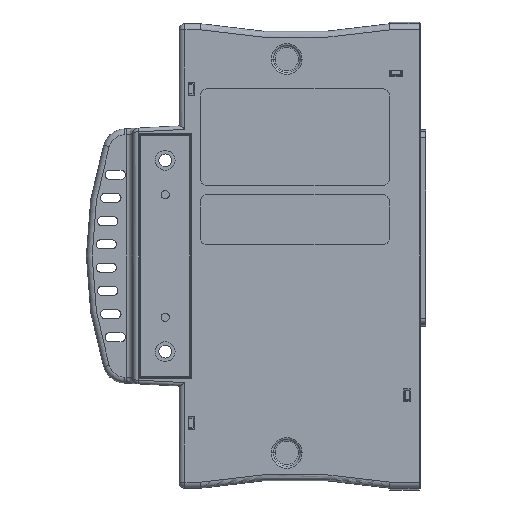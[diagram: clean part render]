
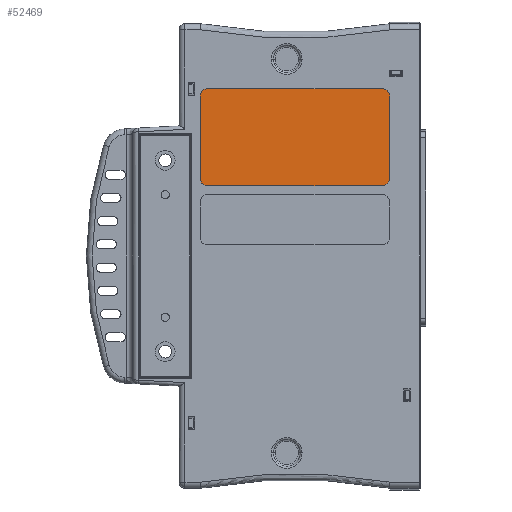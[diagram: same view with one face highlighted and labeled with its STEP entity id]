
A CAD part, front view. The second image highlights one B-rep face of the part: STEP entity #52469.
In plain terms, the highlighted planar face has unit normal (0, -1, 0).
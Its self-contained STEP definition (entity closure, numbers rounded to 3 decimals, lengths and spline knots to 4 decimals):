
#17764=CARTESIAN_POINT('',(-0.944,0.008,1.72));
#17765=DIRECTION('',(0.,-1.,0.));
#17766=DIRECTION('',(0.,0.,1.));
#17767=AXIS2_PLACEMENT_3D('',#17764,#17765,#17766);
#17769=DIRECTION('',(-1.,0.,0.));
#17770=VECTOR('',#17769,1.881);
#17771=CARTESIAN_POINT('',(0.937,0.008,1.8));
#17772=LINE('',#17771,#17770);
#17773=CARTESIAN_POINT('',(0.937,0.008,1.72));
#17774=DIRECTION('',(0.,-1.,0.));
#17775=DIRECTION('',(1.,0.,0.));
#17776=AXIS2_PLACEMENT_3D('',#17773,#17774,#17775);
#17778=DIRECTION('',(0.,0.,1.));
#17779=VECTOR('',#17778,0.883);
#17780=CARTESIAN_POINT('',(1.017,0.008,0.837));
#17781=LINE('',#17780,#17779);
#17782=CARTESIAN_POINT('',(0.937,0.008,0.837));
#17783=DIRECTION('',(0.,-1.,0.));
#17784=DIRECTION('',(0.,0.,-1.));
#17785=AXIS2_PLACEMENT_3D('',#17782,#17783,#17784);
#17787=DIRECTION('',(1.,0.,0.));
#17788=VECTOR('',#17787,1.881);
#17789=CARTESIAN_POINT('',(-0.944,0.008,0.757));
#17790=LINE('',#17789,#17788);
#17791=CARTESIAN_POINT('',(-0.944,0.008,0.837));
#17792=DIRECTION('',(0.,-1.,0.));
#17793=DIRECTION('',(-1.,0.,0.));
#17794=AXIS2_PLACEMENT_3D('',#17791,#17792,#17793);
#17796=DIRECTION('',(0.,0.,-1.));
#17797=VECTOR('',#17796,0.883);
#17798=CARTESIAN_POINT('',(-1.024,0.008,1.72));
#17799=LINE('',#17798,#17797);
#25246=CARTESIAN_POINT('',(-0.944,0.008,1.8));
#25247=CARTESIAN_POINT('',(-1.024,0.008,1.72));
#25248=VERTEX_POINT('',#25246);
#25249=VERTEX_POINT('',#25247);
#25250=CARTESIAN_POINT('',(-1.024,0.008,0.837));
#25251=VERTEX_POINT('',#25250);
#25252=CARTESIAN_POINT('',(-0.944,0.008,0.757));
#25253=VERTEX_POINT('',#25252);
#25254=CARTESIAN_POINT('',(0.937,0.008,0.757));
#25255=VERTEX_POINT('',#25254);
#25256=CARTESIAN_POINT('',(1.017,0.008,0.837));
#25257=VERTEX_POINT('',#25256);
#25258=CARTESIAN_POINT('',(1.017,0.008,1.72));
#25259=VERTEX_POINT('',#25258);
#25260=CARTESIAN_POINT('',(0.937,0.008,1.8));
#25261=VERTEX_POINT('',#25260);
#52454=CARTESIAN_POINT('',(0.,0.008,0.));
#52455=DIRECTION('',(0.,-1.,0.));
#52456=DIRECTION('',(1.,0.,0.));
#52457=AXIS2_PLACEMENT_3D('',#52454,#52455,#52456);
#52458=PLANE('',#52457);
#52459=ORIENTED_EDGE('',*,*,#52350,.F.);
#52460=ORIENTED_EDGE('',*,*,#52365,.F.);
#52461=ORIENTED_EDGE('',*,*,#52379,.F.);
#52462=ORIENTED_EDGE('',*,*,#52393,.F.);
#52463=ORIENTED_EDGE('',*,*,#52407,.F.);
#52464=ORIENTED_EDGE('',*,*,#52421,.F.);
#52465=ORIENTED_EDGE('',*,*,#52435,.F.);
#52466=ORIENTED_EDGE('',*,*,#52448,.F.);
#52467=EDGE_LOOP('',(#52459,#52460,#52461,#52462,#52463,#52464,#52465,#52466));
#52468=FACE_OUTER_BOUND('',#52467,.F.);
#52469=ADVANCED_FACE('',(#52468),#52458,.T.);
#17768=CIRCLE('',#17767,0.08);
#17777=CIRCLE('',#17776,0.08);
#17786=CIRCLE('',#17785,0.08);
#17795=CIRCLE('',#17794,0.08);
#52350=EDGE_CURVE('',#25248,#25249,#17768,.T.);
#52365=EDGE_CURVE('',#25261,#25248,#17772,.T.);
#52379=EDGE_CURVE('',#25259,#25261,#17777,.T.);
#52393=EDGE_CURVE('',#25257,#25259,#17781,.T.);
#52407=EDGE_CURVE('',#25255,#25257,#17786,.T.);
#52421=EDGE_CURVE('',#25253,#25255,#17790,.T.);
#52435=EDGE_CURVE('',#25251,#25253,#17795,.T.);
#52448=EDGE_CURVE('',#25249,#25251,#17799,.T.);
